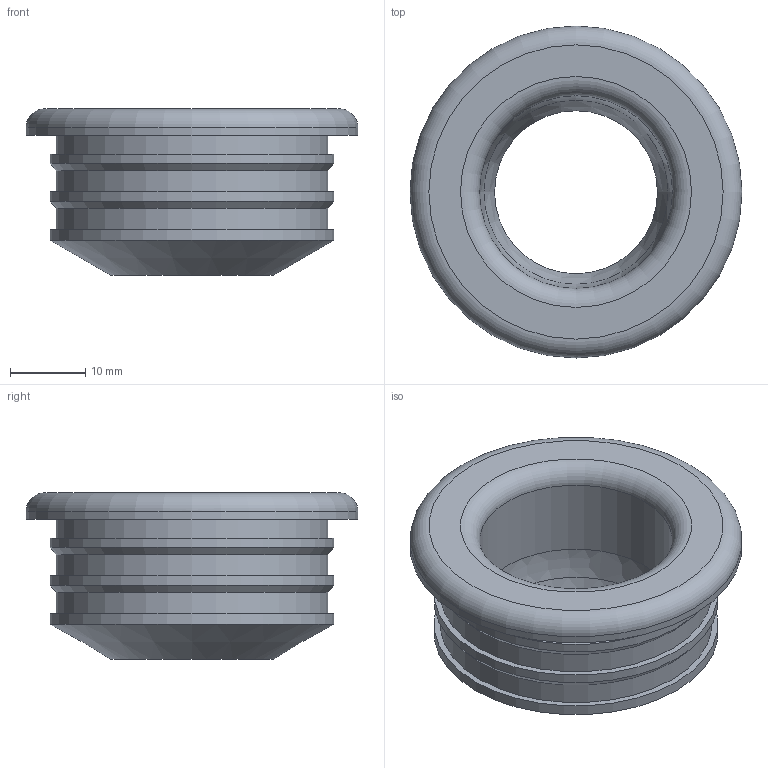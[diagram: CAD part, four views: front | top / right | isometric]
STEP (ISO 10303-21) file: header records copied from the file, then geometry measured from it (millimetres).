
FILE_DESCRIPTION( ( 'STEP AP214' ), '1' );
FILE_NAME( 'C:/Users/ilukic/Documents/ex/paket6/waste_fitting/fur_waschbecken_und_bidets/zubehor/sleeve EPDM for d60_40 60IRHD/152498.stp', '2021-07-21T10:37:11', ( 'License CC BY-ND 4.0' ), ( 'CADENAS' ), ' ', 'PARTsolutions', ' ' );
FILE_SCHEMA( ( 'AUTOMOTIVE_DESIGN { 1 0 10303 214 1 1 1 1 }' ) );
Length unit declared in the file: millimetre
Products named in the file (1): _152498
Bounding box: 44 x 44 x 22.04 mm (x, y, z)
Volume: 12119.9 mm3; surface area: 6304.5 mm2
Topology: 1 solids, 1 shells, 21 faces, 38 edges, 22 vertices
Faces by surface type: cylinder 8, plane 5, cone 4, torus 3, bspline 1
Full cylindrical faces by diameter (mm): 25.6 x1, 36 x3, 37.6 x3, 44 x1
Entity records: 635 total; most frequent: CARTESIAN_POINT 91, DIRECTION 84, AXIS2_PLACEMENT_3D 42, EDGE_LOOP 42, ORIENTED_EDGE 42, FACE_OUTER_BOUND 33, STYLED_ITEM 21, PRESENTATION_STYLE_ASSIGNMENT 21
